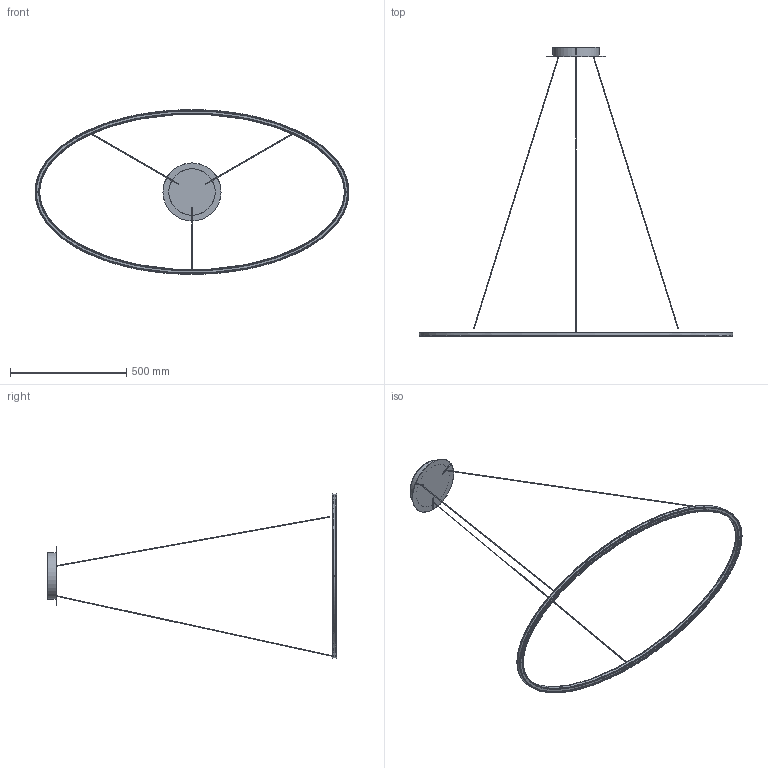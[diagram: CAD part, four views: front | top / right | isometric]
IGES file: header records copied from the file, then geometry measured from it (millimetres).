
Start section: SolidWorks IGES file using analytic representation for surfaces
Global section: file name: C:\Users\tungari.NEMOLIGHTING\Desktop\3D\PENDANT\3D_ELLISSE_PENDANT_MAJOR\3D_ELLISSE_PENDANT_MAJOR\3D_ELLISSE_PENDANT_MAJOR.IGS; native system: SolidWorks 2016; preprocessor: SolidWorks 2016; author: tungari; date: 180223.114248; units: millimetre
Bounding box: 1350 x 1246.91 x 709 mm (x, y, z)
Surface area: 750132.4 mm2 (no closed solid volume)
Topology: 0 solids, 0 shells, 407 faces, 4868 edges, 4868 vertices
Faces by surface type: revolution 253, bspline 154
